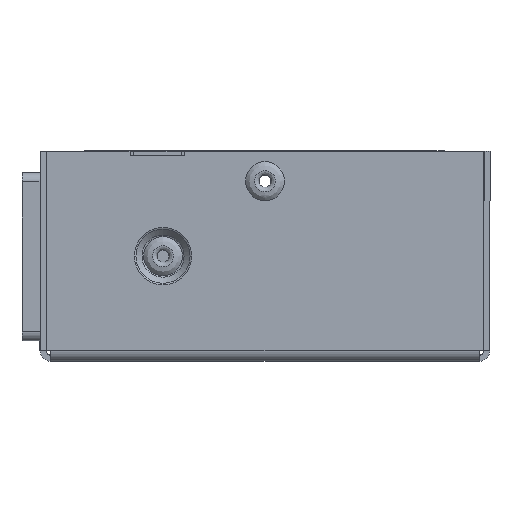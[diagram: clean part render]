
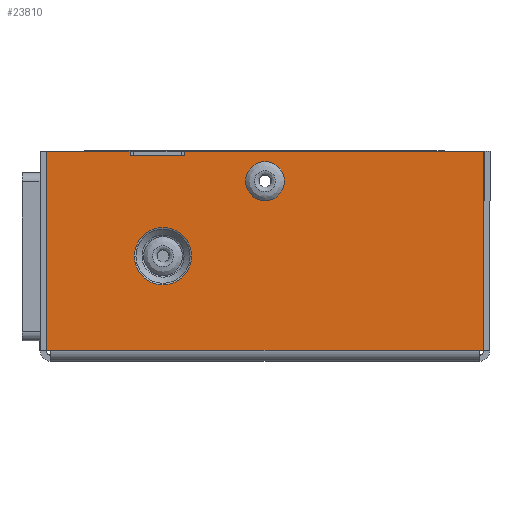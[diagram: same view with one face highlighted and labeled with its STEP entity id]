
A CAD part, left-side view. The second image highlights one B-rep face of the part: STEP entity #23810.
In plain terms, the highlighted planar face has unit normal (-1, 0, 0).
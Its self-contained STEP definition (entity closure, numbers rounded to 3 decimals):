
#15475=CARTESIAN_POINT('',(-30.,0.,26.75));
#15476=VERTEX_POINT('',#15475);
#15477=CARTESIAN_POINT('',(-30.,0.,30.0));
#15478=DIRECTION('',(1.0,0.0,0.0));
#15479=DIRECTION('',(0.0,0.0,1.0));
#15480=AXIS2_PLACEMENT_3D('',#15477,#15478,#15479);
#15481=CIRCLE('',#15480,3.25);
#15482=EDGE_CURVE('',#15476,#15476,#15481,.T.);
#23294=CARTESIAN_POINT('',(-30.0,17.,22.278));
#23295=VERTEX_POINT('',#23294);
#23296=CARTESIAN_POINT('',(-30.0,17.,17.5));
#23297=DIRECTION('',(1.0,0.0,0.0));
#23298=DIRECTION('',(0.0,0.0,1.0));
#23299=AXIS2_PLACEMENT_3D('',#23296,#23297,#23298);
#23300=CIRCLE('',#23299,4.778);
#23301=EDGE_CURVE('',#23295,#23295,#23300,.T.);
#23474=CARTESIAN_POINT('',(-30.,22.5,34.2));
#23475=VERTEX_POINT('',#23474);
#23490=CARTESIAN_POINT('',(-30.,22.5,35.0));
#23491=VERTEX_POINT('',#23490);
#23498=CARTESIAN_POINT('',(-30.0,22.5,34.2));
#23499=DIRECTION('',(0.0,0.0,1.0));
#23500=VECTOR('',#23499,0.8);
#23501=LINE('',#23498,#23500);
#23502=EDGE_CURVE('',#23475,#23491,#23501,.T.);
#23512=CARTESIAN_POINT('',(-30.,13.4,34.2));
#23513=VERTEX_POINT('',#23512);
#23522=CARTESIAN_POINT('',(-30.,13.4,35.0));
#23523=VERTEX_POINT('',#23522);
#23524=CARTESIAN_POINT('',(-30.0,13.4,35.0));
#23525=DIRECTION('',(0.0,0.0,-1.0));
#23526=VECTOR('',#23525,0.8);
#23527=LINE('',#23524,#23526);
#23528=EDGE_CURVE('',#23523,#23513,#23527,.T.);
#23559=CARTESIAN_POINT('',(-30.,13.4,34.2));
#23560=DIRECTION('',(0.0,1.0,0.0));
#23561=VECTOR('',#23560,9.1);
#23562=LINE('',#23559,#23561);
#23563=EDGE_CURVE('',#23513,#23475,#23562,.T.);
#23706=CARTESIAN_POINT('',(-30.,36.49,35.0));
#23707=VERTEX_POINT('',#23706);
#23714=CARTESIAN_POINT('',(-30.,36.49,35.0));
#23715=DIRECTION('',(0.0,-1.0,0.0));
#23716=VECTOR('',#23715,13.99);
#23717=LINE('',#23714,#23716);
#23718=EDGE_CURVE('',#23707,#23491,#23717,.T.);
#23729=CARTESIAN_POINT('',(-30.,-36.49,35.0));
#23730=VERTEX_POINT('',#23729);
#23731=CARTESIAN_POINT('',(-30.,13.4,35.0));
#23732=DIRECTION('',(0.0,-1.0,0.0));
#23733=VECTOR('',#23732,49.89);
#23734=LINE('',#23731,#23733);
#23735=EDGE_CURVE('',#23523,#23730,#23734,.T.);
#23754=CARTESIAN_POINT('',(-30.,36.49,0.0));
#23755=DIRECTION('',(-1.0,0.0,0.0));
#23756=DIRECTION('',(0.0,0.0,1.0));
#23757=AXIS2_PLACEMENT_3D('',#23754,#23755,#23756);
#23758=PLANE('',#23757);
#23759=ORIENTED_EDGE('',*,*,#23528,.T.);
#23760=ORIENTED_EDGE('',*,*,#23563,.T.);
#23761=ORIENTED_EDGE('',*,*,#23502,.T.);
#23762=ORIENTED_EDGE('',*,*,#23718,.F.);
#23763=CARTESIAN_POINT('',(-30.,36.49,1.8));
#23764=VERTEX_POINT('',#23763);
#23765=CARTESIAN_POINT('',(-30.,36.49,35.0));
#23766=DIRECTION('',(0.0,0.0,-1.0));
#23767=VECTOR('',#23766,33.2);
#23768=LINE('',#23765,#23767);
#23769=EDGE_CURVE('',#23707,#23764,#23768,.T.);
#23770=ORIENTED_EDGE('',*,*,#23769,.T.);
#23771=CARTESIAN_POINT('',(-30.,35.7,1.8));
#23772=VERTEX_POINT('',#23771);
#23773=CARTESIAN_POINT('',(-30.,36.49,1.8));
#23774=DIRECTION('',(0.0,-1.0,0.0));
#23775=VECTOR('',#23774,0.79);
#23776=LINE('',#23773,#23775);
#23777=EDGE_CURVE('',#23764,#23772,#23776,.T.);
#23778=ORIENTED_EDGE('',*,*,#23777,.T.);
#23779=CARTESIAN_POINT('',(-30.,-35.7,1.8));
#23780=VERTEX_POINT('',#23779);
#23781=CARTESIAN_POINT('',(-30.,-35.7,1.8));
#23782=DIRECTION('',(0.0,1.0,0.0));
#23783=VECTOR('',#23782,71.4);
#23784=LINE('',#23781,#23783);
#23785=EDGE_CURVE('',#23780,#23772,#23784,.T.);
#23786=ORIENTED_EDGE('',*,*,#23785,.F.);
#23787=CARTESIAN_POINT('',(-30.,-36.49,1.8));
#23788=VERTEX_POINT('',#23787);
#23789=CARTESIAN_POINT('',(-30.,-35.7,1.8));
#23790=DIRECTION('',(0.0,-1.0,0.0));
#23791=VECTOR('',#23790,0.79);
#23792=LINE('',#23789,#23791);
#23793=EDGE_CURVE('',#23780,#23788,#23792,.T.);
#23794=ORIENTED_EDGE('',*,*,#23793,.T.);
#23795=CARTESIAN_POINT('',(-30.,-36.49,1.8));
#23796=DIRECTION('',(0.0,0.0,1.0));
#23797=VECTOR('',#23796,33.2);
#23798=LINE('',#23795,#23797);
#23799=EDGE_CURVE('',#23788,#23730,#23798,.T.);
#23800=ORIENTED_EDGE('',*,*,#23799,.T.);
#23801=ORIENTED_EDGE('',*,*,#23735,.F.);
#23802=EDGE_LOOP('',(#23759,#23760,#23761,#23762,#23770,#23778,#23786,#23794,#23800,#23801));
#23803=FACE_OUTER_BOUND('',#23802,.T.);
#23804=ORIENTED_EDGE('',*,*,#15482,.T.);
#23805=EDGE_LOOP('',(#23804));
#23806=FACE_BOUND('',#23805,.T.);
#23807=ORIENTED_EDGE('',*,*,#23301,.T.);
#23808=EDGE_LOOP('',(#23807));
#23809=FACE_BOUND('',#23808,.T.);
#23810=ADVANCED_FACE('',(#23803,#23806,#23809),#23758,.T.);
